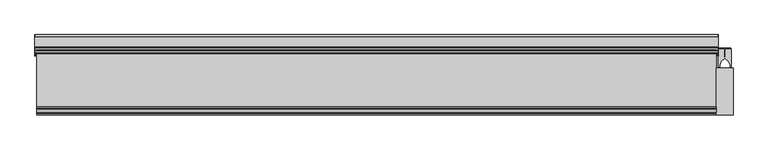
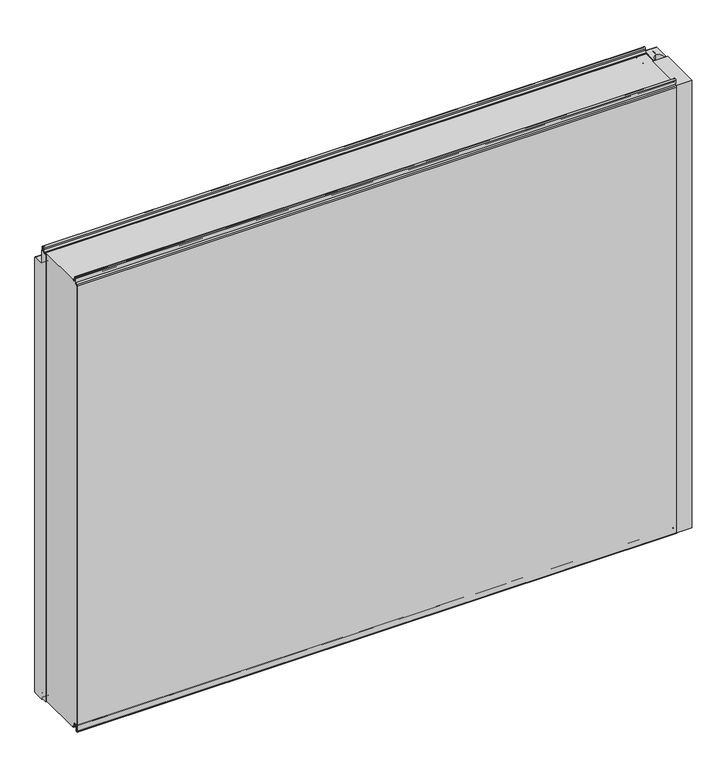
"""IFC4 building model written with IfcOpenShell, lengths in millimetres: plate geometry, Fronttop : Fronttop 150/1000."""

from ifc_helpers import new_model, si_unit, point, frame, frame_2d, origin, origin_with_axes, place, context, project, spatial, polyline, circle_curve, trimmed, segment, composite_curve, outline, extrude, source, transform, mapped, element, save
from ifc_brep_helpers import plane_surface, cylinder_surface, revolved_surface, advanced_brep


def plate_c80f8a6c(model_context):
    return source(origin(), model_context, "Body", "SolidModel", [
        advanced_brep(
        [(-636.5, 124.0, 1008.0), (-636.5, 121.0, 1008.0), (-636.5, 121.0, 1004.0), (-636.5, 117.0, 1000.0), (-636.5, 115.0, 1000.0), (-636.5, 115.0, 1001.0), (-636.5, 117.0, 1001.0), (-636.5, 120.0, 1004.0), (-636.5, 120.0, 1008.0), (-636.5, 125.0, 1008.0), (-636.5, 125.0, 1000.0), (-636.5, 124.0, 1000.0), (636.5, 125.0, 1008.0), (636.5, 120.0, 1008.0), (636.5, 120.0, 1004.0), (636.5, 117.0, 1001.0), (636.5, 115.0, 1001.0), (636.5, 115.0, 1000.0), (636.5, 117.0, 1000.0), (636.5, 121.0, 1004.0), (636.5, 121.0, 1008.0), (636.5, 124.0, 1008.0), (636.5, 124.0, 1000.0), (636.5, 125.0, 1000.0), (-636.5, 117.0, 2.0), (636.5, 117.0, 2.0), (636.5, 115.0, 2.0), (-636.5, 115.0, 2.0), (-636.5, 119.0, 4.0), (636.5, 119.0, 4.0), (-636.5, 119.0, 8.0), (636.5, 119.0, 8.0), (-636.5, 126.0, 8.0), (636.5, 126.0, 8.0), (-636.5, 126.0, 0.0), (636.5, 126.0, 0.0), (-636.5, 129.0, -3.0), (636.5, 129.0, -3.0), (-636.5, 125.0, -3.0), (-637.5, 125.0, -3.0), (-637.5, 147.0, -3.0), (-636.5, 147.0, -3.0), (636.5, 147.0, -3.0), (637.5, 147.0, -3.0), (637.5, 125.0, -3.0), (636.5, 125.0, -3.0), (-636.5, 150.0, 0.0), (636.5, 150.0, 0.0), (-637.5, 150.0, 0.0), (-637.5, 150.0, 969.0), (-636.5, 150.0, 969.0), (636.5, 150.0, 969.0), (637.5, 150.0, 969.0), (637.5, 150.0, 0.0), (-636.5, 147.0, 972.0), (636.5, 147.0, 972.0), (-637.5, 147.0, 972.0), (-637.5, 128.0, 972.0), (-636.5, 128.0, 972.0), (636.5, 128.0, 972.0), (637.5, 128.0, 972.0), (637.5, 147.0, 972.0), (-636.5, 125.0, 975.0), (636.5, 125.0, 975.0), (-637.5, 125.0, 975.0), (-637.5, 125.0, 1000.0), (637.5, 125.0, 1000.0), (637.5, 125.0, 975.0), (-636.5, 124.0, 975.0), (636.5, 124.0, 975.0), (-636.5, 128.0, 971.0), (636.5, 128.0, 971.0), (-636.5, 147.0, 971.0), (636.5, 147.0, 971.0), (-636.5, 149.0, 969.0), (636.5, 149.0, 969.0), (-636.5, 149.0, 0.0), (636.5, 149.0, 0.0), (-636.5, 147.0, -2.0), (636.5, 147.0, -2.0), (-636.5, 129.0, -2.0), (636.5, 129.0, -2.0), (-636.5, 127.0, 0.0), (636.5, 127.0, 0.0), (-636.5, 127.0, 8.0), (636.5, 127.0, 8.0), (-636.5, 118.0, 8.0), (636.5, 118.0, 8.0), (-636.5, 118.0, 4.0), (636.5, 118.0, 4.0), (-636.5, 117.0, 3.0), (636.5, 117.0, 3.0), (-636.5, 115.0, 3.0), (636.5, 115.0, 3.0), (637.5, 110.0, 1000.0), (637.5, 110.0, 0.0), (637.5, 125.0, 0.0), (636.5, 125.0, 0.0), (636.5, 110.0, 0.0), (636.5, 110.0, 1000.0), (-637.5, 125.0, 0.0), (-637.5, 110.0, 0.0), (-637.5, 110.0, 1000.0), (-636.5, 110.0, 1000.0), (-636.5, 110.0, 0.0), (-636.5, 125.0, 0.0)],
        [
            (0, 1, circle_curve(frame((-636.5, 122.5, 1008.0), z_axis=(1.0, 0.0, 0.0), x_axis=(0.0, -1.0, 0.0)), 1.5)),
            (1, 2),
            (2, 3, circle_curve(frame((-636.5, 117.0, 1004.0), z_axis=(-1.0, 0.0, 0.0), x_axis=(0.0, -1.0, 0.0)), 4.0)),
            (3, 4),
            (4, 5),
            (5, 6),
            (6, 7, circle_curve(frame((-636.5, 117.0, 1004.0), z_axis=(1.0, 0.0, 0.0), x_axis=(0.0, -1.0, 0.0)), 3.0)),
            (7, 8),
            (8, 9, circle_curve(frame((-636.5, 122.5, 1008.0), z_axis=(-1.0, 0.0, 0.0), x_axis=(0.0, -1.0, 0.0)), 2.5)),
            (9, 10),
            (10, 11),
            (11, 0),
            (12, 13, circle_curve(frame((636.5, 122.5, 1008.0), z_axis=(1.0, 0.0, 0.0), x_axis=(0.0, -1.0, 0.0)), 2.5)),
            (13, 14),
            (14, 15, circle_curve(frame((636.5, 117.0, 1004.0), z_axis=(-1.0, 0.0, 0.0), x_axis=(0.0, -1.0, 0.0)), 3.0)),
            (15, 16),
            (16, 17),
            (17, 18),
            (18, 19, circle_curve(frame((636.5, 117.0, 1004.0), z_axis=(1.0, 0.0, 0.0), x_axis=(0.0, -1.0, 0.0)), 4.0)),
            (19, 20),
            (20, 21, circle_curve(frame((636.5, 122.5, 1008.0), z_axis=(-1.0, 0.0, 0.0), x_axis=(0.0, -1.0, 0.0)), 1.5)),
            (21, 22),
            (22, 23),
            (23, 12),
            (24, 25),
            (25, 26),
            (26, 27),
            (27, 24),
            (24, 28, circle_curve(frame((-636.5, 117.0, 4.0), z_axis=(1.0, 0.0, 0.0), x_axis=(0.0, -1.0, 0.0)), 2.0)),
            (28, 29),
            (29, 25, circle_curve(frame((636.5, 117.0, 4.0), z_axis=(-1.0, 0.0, 0.0), x_axis=(0.0, -1.0, 0.0)), 2.0)),
            (28, 30),
            (30, 31),
            (31, 29),
            (30, 32, circle_curve(frame((-636.5, 122.5, 8.0), z_axis=(-1.0, 0.0, 0.0), x_axis=(0.0, -1.0, 0.0)), 3.5)),
            (32, 33),
            (33, 31, circle_curve(frame((636.5, 122.5, 8.0), z_axis=(1.0, 0.0, 0.0), x_axis=(0.0, -1.0, 0.0)), 3.5)),
            (32, 34),
            (34, 35),
            (35, 33),
            (34, 36, circle_curve(frame((-636.5, 129.0, 0.0), z_axis=(1.0, 0.0, 0.0), x_axis=(0.0, -1.0, 0.0)), 3.0)),
            (36, 37),
            (37, 35, circle_curve(frame((636.5, 129.0, 0.0), z_axis=(-1.0, 0.0, 0.0), x_axis=(0.0, -1.0, 0.0)), 3.0)),
            (36, 38),
            (38, 39),
            (39, 40),
            (40, 41),
            (41, 42),
            (42, 43),
            (43, 44),
            (44, 45),
            (45, 37),
            (41, 46, circle_curve(frame((-636.5, 147.0, 0.0), z_axis=(1.0, 0.0, 0.0), x_axis=(0.0, -1.0, 0.0)), 3.0)),
            (46, 47),
            (47, 42, circle_curve(frame((636.5, 147.0, 0.0), z_axis=(-1.0, 0.0, 0.0), x_axis=(0.0, -1.0, 0.0)), 3.0)),
            (46, 48),
            (48, 49),
            (49, 50),
            (50, 51),
            (51, 52),
            (52, 53),
            (53, 47),
            (50, 54, circle_curve(frame((-636.5, 147.0, 969.0), z_axis=(1.0, 0.0, 0.0), x_axis=(0.0, -1.0, 0.0)), 3.0)),
            (54, 55),
            (55, 51, circle_curve(frame((636.5, 147.0, 969.0), z_axis=(-1.0, 0.0, 0.0), x_axis=(0.0, -1.0, 0.0)), 3.0)),
            (54, 56),
            (56, 57),
            (57, 58),
            (58, 59),
            (59, 60),
            (60, 61),
            (61, 55),
            (58, 62, circle_curve(frame((-636.5, 128.0, 975.0), z_axis=(-1.0, 0.0, 0.0), x_axis=(0.0, -1.0, 0.0)), 3.0)),
            (62, 63),
            (63, 59, circle_curve(frame((636.5, 128.0, 975.0), z_axis=(1.0, 0.0, 0.0), x_axis=(0.0, -1.0, 0.0)), 3.0)),
            (62, 64),
            (64, 65),
            (65, 10),
            (9, 12),
            (23, 66),
            (66, 67),
            (67, 63),
            (8, 13),
            (7, 14),
            (6, 15),
            (5, 16),
            (4, 17),
            (4, 3),
            (3, 18),
            (18, 17),
            (2, 19),
            (1, 20),
            (0, 21),
            (11, 68),
            (68, 69),
            (69, 22),
            (68, 70, circle_curve(frame((-636.5, 128.0, 975.0), z_axis=(1.0, 0.0, 0.0), x_axis=(0.0, -1.0, 0.0)), 4.0)),
            (70, 71),
            (71, 69, circle_curve(frame((636.5, 128.0, 975.0), z_axis=(-1.0, 0.0, 0.0), x_axis=(0.0, -1.0, 0.0)), 4.0)),
            (70, 72),
            (72, 73),
            (73, 71),
            (72, 74, circle_curve(frame((-636.5, 147.0, 969.0), z_axis=(-1.0, 0.0, 0.0), x_axis=(0.0, -1.0, 0.0)), 2.0)),
            (74, 75),
            (75, 73, circle_curve(frame((636.5, 147.0, 969.0), z_axis=(1.0, 0.0, 0.0), x_axis=(0.0, -1.0, 0.0)), 2.0)),
            (74, 76),
            (76, 77),
            (77, 75),
            (76, 78, circle_curve(frame((-636.5, 147.0, 0.0), z_axis=(-1.0, 0.0, 0.0), x_axis=(0.0, -1.0, 0.0)), 2.0)),
            (78, 79),
            (79, 77, circle_curve(frame((636.5, 147.0, 0.0), z_axis=(1.0, 0.0, 0.0), x_axis=(0.0, -1.0, 0.0)), 2.0)),
            (78, 80),
            (80, 81),
            (81, 79),
            (80, 82, circle_curve(frame((-636.5, 129.0, 0.0), z_axis=(-1.0, 0.0, 0.0), x_axis=(0.0, -1.0, 0.0)), 2.0)),
            (82, 83),
            (83, 81, circle_curve(frame((636.5, 129.0, 0.0), z_axis=(1.0, 0.0, 0.0), x_axis=(0.0, -1.0, 0.0)), 2.0)),
            (82, 84),
            (84, 85),
            (85, 83),
            (84, 86, circle_curve(frame((-636.5, 122.5, 8.0), z_axis=(1.0, 0.0, 0.0), x_axis=(0.0, -1.0, 0.0)), 4.5)),
            (86, 87),
            (87, 85, circle_curve(frame((636.5, 122.5, 8.0), z_axis=(-1.0, 0.0, 0.0), x_axis=(0.0, -1.0, 0.0)), 4.5)),
            (86, 88),
            (88, 89),
            (89, 87),
            (88, 90, circle_curve(frame((-636.5, 117.0, 4.0), z_axis=(-1.0, 0.0, 0.0), x_axis=(0.0, -1.0, 0.0)), 1.0)),
            (90, 91),
            (91, 89, circle_curve(frame((636.5, 117.0, 4.0), z_axis=(1.0, 0.0, 0.0), x_axis=(0.0, -1.0, 0.0)), 1.0)),
            (90, 92),
            (92, 93),
            (93, 91),
            (26, 93),
            (92, 27),
            (66, 94),
            (94, 95),
            (95, 96),
            (96, 44),
            (43, 53, circle_curve(frame((637.5, 147.0, 0.0), z_axis=(1.0, 0.0, 0.0), x_axis=(0.0, 1.0, 0.0)), 3.0)),
            (52, 61, circle_curve(frame((637.5, 147.0, 969.0), z_axis=(1.0, 0.0, 0.0), x_axis=(0.0, 1.0, 0.0)), 3.0)),
            (60, 67, circle_curve(frame((637.5, 128.0, 975.0), z_axis=(-1.0, 0.0, 0.0), x_axis=(0.0, 1.0, 0.0)), 3.0)),
            (45, 97),
            (97, 98),
            (98, 99),
            (99, 17),
            (18, 22),
            (99, 94),
            (98, 95),
            (97, 96),
            (64, 57, circle_curve(frame((-637.5, 128.0, 975.0), z_axis=(1.0, 0.0, 0.0), x_axis=(0.0, 1.0, 0.0)), 3.0)),
            (56, 49, circle_curve(frame((-637.5, 147.0, 969.0), z_axis=(-1.0, 0.0, 0.0), x_axis=(0.0, 1.0, 0.0)), 3.0)),
            (48, 40, circle_curve(frame((-637.5, 147.0, 0.0), z_axis=(-1.0, 0.0, 0.0), x_axis=(0.0, 1.0, 0.0)), 3.0)),
            (39, 100),
            (100, 101),
            (101, 102),
            (102, 65),
            (103, 104),
            (104, 105),
            (105, 38),
            (11, 3),
            (4, 103),
            (102, 103),
            (101, 104),
            (100, 105),
        ],
        [
            plane_surface(frame((-636.5, 0.0, 0.0), z_axis=(-1.0, 0.0, 0.0), x_axis=(0.0, 0.0, 1.0))),
            plane_surface(frame((636.5, 0.0, 0.0), z_axis=(1.0, 0.0, 0.0), x_axis=(0.0, 0.0, 1.0))),
            plane_surface(frame((-636.5, 117.0, 2.0), z_axis=(0.0, 0.0, -1.0), x_axis=(1.0, 0.0, 0.0))),
            cylinder_surface(frame((-636.5, 117.0, 4.0), z_axis=(-1.0, 0.0, 0.0), x_axis=(0.0, -1.0, 0.0)), 2.0),
            plane_surface(frame((-636.5, 119.0, 8.0), z_axis=(0.0, 1.0, 0.0), x_axis=(1.0, 0.0, 0.0))),
            revolved_surface(polyline([(636.5, 119.0, 8.0), (-636.5, 119.0, 8.0)]), (-636.5, 122.5, 8.0), (1.0, 0.0, 0.0)),
            plane_surface(frame((-636.5, 126.0, 0.0), z_axis=(0.0, -1.0, 0.0), x_axis=(1.0, 0.0, 0.0))),
            cylinder_surface(frame((-636.5, 129.0, 0.0), z_axis=(-1.0, 0.0, 0.0), x_axis=(0.0, -1.0, 0.0)), 3.0),
            plane_surface(frame((-636.5, 147.0, -3.0), z_axis=(0.0, 0.0, -1.0), x_axis=(1.0, 0.0, 0.0))),
            cylinder_surface(frame((-636.5, 147.0, 0.0), z_axis=(-1.0, 0.0, 0.0), x_axis=(0.0, -1.0, 0.0)), 3.0),
            plane_surface(frame((-636.5, 150.0, 969.0), z_axis=(0.0, 1.0, 0.0), x_axis=(1.0, 0.0, 0.0))),
            cylinder_surface(frame((-636.5, 147.0, 969.0), z_axis=(-1.0, 0.0, 0.0), x_axis=(0.0, -1.0, 0.0)), 3.0),
            plane_surface(frame((-636.5, 128.0, 972.0), z_axis=(0.0, 0.0, 1.0), x_axis=(1.0, 0.0, 0.0))),
            revolved_surface(polyline([(636.5, 125.0, 975.0), (-636.5, 125.0, 975.0)]), (-636.5, 128.0, 975.0), (1.0, 0.0, 0.0)),
            plane_surface(frame((-636.5, 125.0, 1008.0), z_axis=(0.0, 1.0, 0.0), x_axis=(1.0, 0.0, 0.0))),
            cylinder_surface(frame((-636.5, 122.5, 1008.0), z_axis=(-1.0, 0.0, 0.0), x_axis=(0.0, -1.0, 0.0)), 2.5),
            plane_surface(frame((-636.5, 120.0, 1004.0), z_axis=(0.0, -1.0, 0.0), x_axis=(1.0, 0.0, 0.0))),
            revolved_surface(polyline([(636.5, 114.0, 1004.0), (-636.5, 114.0, 1004.0)]), (-636.5, 117.0, 1004.0), (1.0, 0.0, 0.0)),
            plane_surface(frame((-636.5, 115.0, 1001.0), z_axis=(0.0, 0.0, 1.0), x_axis=(1.0, 0.0, 0.0))),
            plane_surface(frame((-636.5, 115.0, 1000.0), z_axis=(0.0, -1.0, 0.0), x_axis=(1.0, 0.0, 0.0))),
            plane_surface(frame((-636.5, 117.0, 1000.0), z_axis=(0.0, 0.0, -1.0), x_axis=(1.0, 0.0, 0.0))),
            cylinder_surface(frame((-636.5, 117.0, 1004.0), z_axis=(-1.0, 0.0, 0.0), x_axis=(0.0, -1.0, 0.0)), 4.0),
            plane_surface(frame((-636.5, 121.0, 1008.0), z_axis=(0.0, 1.0, 0.0), x_axis=(1.0, 0.0, 0.0))),
            revolved_surface(polyline([(636.5, 121.0, 1008.0), (-636.5, 121.0, 1008.0)]), (-636.5, 122.5, 1008.0), (1.0, 0.0, 0.0)),
            plane_surface(frame((-636.5, 124.0, 975.0), z_axis=(0.0, -1.0, 0.0), x_axis=(1.0, 0.0, 0.0))),
            cylinder_surface(frame((-636.5, 128.0, 975.0), z_axis=(-1.0, 0.0, 0.0), x_axis=(0.0, -1.0, 0.0)), 4.0),
            plane_surface(frame((-636.5, 147.0, 971.0), z_axis=(0.0, 0.0, -1.0), x_axis=(1.0, 0.0, 0.0))),
            revolved_surface(polyline([(636.5, 145.0, 969.0), (-636.5, 145.0, 969.0)]), (-636.5, 147.0, 969.0), (1.0, 0.0, 0.0)),
            plane_surface(frame((-636.5, 149.0, 0.0), z_axis=(0.0, -1.0, 0.0), x_axis=(1.0, 0.0, 0.0))),
            revolved_surface(polyline([(636.5, 145.0, 0.0), (-636.5, 145.0, 0.0)]), (-636.5, 147.0, 0.0), (1.0, 0.0, 0.0)),
            plane_surface(frame((-636.5, 129.0, -2.0), z_axis=(0.0, 0.0, 1.0), x_axis=(1.0, 0.0, 0.0))),
            revolved_surface(polyline([(636.5, 127.0, 0.0), (-636.5, 127.0, 0.0)]), (-636.5, 129.0, 0.0), (1.0, 0.0, 0.0)),
            plane_surface(frame((-636.5, 127.0, 8.0), z_axis=(0.0, 1.0, 0.0), x_axis=(1.0, 0.0, 0.0))),
            cylinder_surface(frame((-636.5, 122.5, 8.0), z_axis=(-1.0, 0.0, 0.0), x_axis=(0.0, -1.0, 0.0)), 4.5),
            plane_surface(frame((-636.5, 118.0, 4.0), z_axis=(0.0, -1.0, 0.0), x_axis=(1.0, 0.0, 0.0))),
            revolved_surface(polyline([(636.5, 116.0, 4.0), (-636.5, 116.0, 4.0)]), (-636.5, 117.0, 4.0), (1.0, 0.0, 0.0)),
            plane_surface(frame((-636.5, 115.0, 3.0), z_axis=(0.0, 0.0, 1.0), x_axis=(1.0, 0.0, 0.0))),
            plane_surface(frame((-636.5, 115.0, 2.0), z_axis=(0.0, -1.0, 0.0), x_axis=(1.0, 0.0, 0.0))),
            plane_surface(frame((637.5, 125.0, 1000.0), z_axis=(1.0, 0.0, 0.0), x_axis=(0.0, -1.0, 0.0))),
            plane_surface(frame((636.5, 125.0, 1000.0), z_axis=(-1.0, 0.0, 0.0), x_axis=(0.0, 1.0, 0.0))),
            plane_surface(frame((637.5, 125.0, 1000.0), z_axis=(0.0, 0.0, 1.0), x_axis=(-1.0, 0.0, 0.0))),
            plane_surface(frame((637.5, 110.0, 1000.0), z_axis=(0.0, -1.0, 0.0), x_axis=(-1.0, 0.0, 0.0))),
            plane_surface(frame((637.5, 110.0, 0.0), z_axis=(0.0, 0.0, -1.0), x_axis=(-1.0, 0.0, 0.0))),
            cylinder_surface(frame((636.5, 147.0, 0.0), z_axis=(1.0, 0.0, 0.0), x_axis=(0.0, 1.0, 0.0)), 3.0),
            cylinder_surface(frame((636.5, 147.0, 969.0), z_axis=(1.0, 0.0, 0.0), x_axis=(0.0, 1.0, 0.0)), 3.0),
            revolved_surface(polyline([(636.5, 131.0, 975.0), (637.5, 131.0, 975.0)]), (636.5, 128.0, 975.0), (-1.0, 0.0, 0.0)),
            plane_surface(frame((-637.5, 125.0, 1000.0), z_axis=(-1.0, 0.0, 0.0), x_axis=(0.0, 1.0, 0.0))),
            plane_surface(frame((-636.5, 125.0, 1000.0), z_axis=(1.0, 0.0, 0.0), x_axis=(0.0, -1.0, 0.0))),
            plane_surface(frame((-636.5, 125.0, 1000.0), z_axis=(0.0, 0.0, 1.0), x_axis=(-1.0, 0.0, 0.0))),
            plane_surface(frame((-636.5, 110.0, 1000.0), z_axis=(0.0, -1.0, 0.0), x_axis=(-1.0, 0.0, 0.0))),
            plane_surface(frame((-636.5, 110.0, 0.0), z_axis=(0.0, 0.0, -1.0), x_axis=(-1.0, 0.0, 0.0))),
            cylinder_surface(frame((-637.5, 147.0, 0.0), z_axis=(1.0, 0.0, 0.0), x_axis=(0.0, 1.0, 0.0)), 3.0),
            cylinder_surface(frame((-637.5, 147.0, 969.0), z_axis=(1.0, 0.0, 0.0), x_axis=(0.0, 1.0, 0.0)), 3.0),
            revolved_surface(polyline([(-637.5, 131.0, 975.0), (-636.5, 131.0, 975.0)]), (-637.5, 128.0, 975.0), (-1.0, 0.0, 0.0)),
            plane_surface(frame((637.5, 125.0, 0.0), z_axis=(0.0, -1.0, 0.0), x_axis=(-1.0, 0.0, 0.0))),
            plane_surface(frame((-636.5, 125.0, 0.0), z_axis=(0.0, -1.0, 0.0), x_axis=(-1.0, 0.0, 0.0))),
        ],
        [
            (0, [[1, 2, 3, 4, 5, 6, 7, 8, 9, 10, 11, 12]]),
            (1, [[13, 14, 15, 16, 17, 18, 19, 20, 21, 22, 23, 24]]),
            (2, [[25, 26, 27, 28]]),
            (3, [[-25, 29, 30, 31]]),
            (4, [[-30, 32, 33, 34]]),
            (5, [[-33, 35, 36, 37]]),
            (6, [[-36, 38, 39, 40]]),
            (7, [[-39, 41, 42, 43]]),
            (8, [[-42, 44, 45, 46, 47, 48, 49, 50, 51, 52]]),
            (9, [[-48, 53, 54, 55]]),
            (10, [[-54, 56, 57, 58, 59, 60, 61, 62]]),
            (11, [[-59, 63, 64, 65]]),
            (12, [[-64, 66, 67, 68, 69, 70, 71, 72]]),
            (13, [[-69, 73, 74, 75]]),
            (14, [[-74, 76, 77, 78, -10, 79, -24, 80, 81, 82]]),
            (15, [[-9, 83, -13, -79]]),
            (16, [[-8, 84, -14, -83]]),
            (17, [[-7, 85, -15, -84]]),
            (18, [[-6, 86, -16, -85]]),
            (19, [[-5, 87, -17, -86]]),
            (20, [[-87, 88, 89, 90]]),
            (21, [[-3, 91, -19, -89]]),
            (22, [[-2, 92, -20, -91]]),
            (23, [[-1, 93, -21, -92]]),
            (24, [[-93, -12, 94, 95, 96, -22]]),
            (25, [[-95, 97, 98, 99]]),
            (26, [[-98, 100, 101, 102]]),
            (27, [[-101, 103, 104, 105]]),
            (28, [[-104, 106, 107, 108]]),
            (29, [[-107, 109, 110, 111]]),
            (30, [[-110, 112, 113, 114]]),
            (31, [[-113, 115, 116, 117]]),
            (32, [[-116, 118, 119, 120]]),
            (33, [[-119, 121, 122, 123]]),
            (34, [[-122, 124, 125, 126]]),
            (35, [[-125, 127, 128, 129]]),
            (36, [[-128, 130, 131, 132]]),
            (37, [[-27, 133, -131, 134]]),
            (38, [[135, 136, 137, 138, -50, 139, -61, 140, -71, 141, -81]]),
            (39, [[142, 143, 144, 145, -90, 146, -96, -99, -102, -105, -108, -111, -114, -117, -120, -123, -126, -129, -132, -133, -26, -31, -34, -37, -40, -43, -52]]),
            (40, [[-135, -80, -23, -146, -18, -145, 147]]),
            (41, [[-136, -147, -144, 148]]),
            (42, [[-137, -148, -143, 149]]),
            (43, [[-139, -49, -55, -62]]),
            (44, [[-140, -60, -65, -72]]),
            (45, [[-141, -70, -75, -82]]),
            (46, [[-77, 150, -67, 151, -57, 152, -46, 153, 154, 155, 156]]),
            (47, [[157, 158, 159, -44, -41, -38, -35, -32, -29, -28, -134, -130, -127, -124, -121, -118, -115, -112, -109, -106, -103, -100, -97, -94, 160, -88, 161]]),
            (48, [[-156, 162, -161, -4, -160, -11, -78]]),
            (49, [[-155, 163, -157, -162]]),
            (50, [[-154, 164, -158, -163]]),
            (51, [[-152, -56, -53, -47]]),
            (52, [[-151, -66, -63, -58]]),
            (53, [[-150, -76, -73, -68]]),
            (54, [[-138, -149, -142, -51]]),
            (55, [[-153, -45, -159, -164]]),
        ],
    ),
        extrude(outline(composite_curve([segment(polyline([(637.4998455, 123.5), (649.25, 123.5), (649.25, 107.5), (650.75, 107.5), (650.75, 123.5), (662.5001545, 123.5), (662.5001545, 90.0), (659.75, 90.0), (659.75, 92.5)]), True, "CONTINUOUS"), segment(trimmed(circle_curve(frame_2d((641.9661979, 89.3183984)), 18.0661619), [point((659.75, 92.5))], [point((650.0, 105.5))], True, "CARTESIAN"), True, "CONTINUOUS"), segment(trimmed(circle_curve(frame_2d((658.0338021, 89.3183984)), 18.0661619), [point((650.0, 105.5))], [point((640.25, 92.5))], True, "CARTESIAN"), True, "CONTINUOUS"), segment(polyline([(640.25, 92.5), (640.25, 90.0), (637.4998455, 90.0), (637.4998455, 123.5)]), True, "CONTINUOUS")], self_intersect=False)), origin_with_axes(), (0.0, 0.0, 1.0), 1000.0),
        extrude(outline(polyline([(665.5, 0.0), (634.5, 0.0), (634.5, 88.0), (665.5, 88.0), (665.5, 0.0)])), origin_with_axes(), (0.0, 0.0, 1.0), 1000.0),
        extrude(outline(polyline([(638.4948846, 125.0), (661.5051154, 125.0), (661.5051154, 123.5), (650.6502496, 123.5), (650.6502496, 109.0759655), (649.35, 109.0759655), (649.35, 123.5), (638.4948846, 123.5), (638.4948846, 125.0)])), origin_with_axes(), (0.0, 0.0, 1.0), 1000.0),
        advanced_brep(
        [(-634.5, 13.0, 1001.0), (-634.5, 15.0, 1001.0), (-634.5, 15.0, 1000.0), (-634.5, 13.0, 1000.0), (-634.5, 9.0, 1004.0), (-634.5, 9.0, 1008.0), (-634.5, 6.0, 1008.0), (-634.5, 6.0, 999.5), (-634.5, 2.1134897, 996.0214069), (-634.5, 1.0, 995.0), (-634.5, 1.0, -0.5), (-634.5, 3.0, -0.5), (-634.5, 3.0, 8.0), (-634.5, 12.0, 8.0), (-634.5, 12.0, 4.0), (-634.5, 13.0, 3.0), (-634.5, 15.0, 3.0), (-634.5, 15.0, 2.0), (-634.5, 13.0, 2.0), (-634.5, 11.0, 4.0), (-634.5, 11.0, 8.0), (-634.5, 4.0, 8.0), (-634.5, 4.0, -0.5), (-634.5, 0.0, -0.5), (-634.5, 0.0, 995.0), (-634.5, 2.220863, 996.9877675), (-634.5, 5.0, 999.5), (-634.5, 5.0, 1008.0), (-634.5, 10.0, 1008.0), (-634.5, 10.0, 1004.0), (634.5, 13.0, 1001.0), (634.5, 10.0, 1004.0), (634.5, 10.0, 1008.0), (634.5, 5.0, 1008.0), (634.5, 5.0, 999.5), (634.5, 2.2239212, 997.0152907), (634.5, 0.0, 995.0), (634.5, 0.0, -0.5), (634.5, 4.0, -0.5), (634.5, 4.0, 8.0), (634.5, 11.0, 8.0), (634.5, 11.0, 4.0), (634.5, 13.0, 2.0), (634.5, 15.0, 2.0), (634.5, 15.0, 3.0), (634.5, 13.0, 3.0), (634.5, 12.0, 4.0), (634.5, 12.0, 8.0), (634.5, 3.0, 8.0), (634.5, 3.0, -0.5), (634.5, 1.0, -0.5), (634.5, 1.0, 995.0), (634.5, 2.1104315, 995.9938837), (634.5, 6.0, 999.5), (634.5, 6.0, 1008.0), (634.5, 9.0, 1008.0), (634.5, 9.0, 1004.0), (634.5, 13.0, 1000.0), (634.5, 15.0, 1000.0), (634.5, 15.0, 1001.0)],
        [
            (0, 1),
            (1, 2),
            (2, 3),
            (3, 4, circle_curve(frame((-634.5, 13.0, 1004.0), z_axis=(-1.0, 0.0, 0.0), x_axis=(0.0, -1.0, 0.0)), 4.0)),
            (4, 5),
            (5, 6, circle_curve(frame((-634.5, 7.5, 1008.0), z_axis=(1.0, 0.0, 0.0), x_axis=(0.0, -1.0, 0.0)), 1.5)),
            (6, 7),
            (7, 8, circle_curve(frame((-634.5, 2.5, 999.5), z_axis=(-1.0, 0.0, 0.0), x_axis=(0.0, -1.0, 0.0)), 3.5)),
            (8, 9, circle_curve(frame((-634.5, 2.0, 995.0), z_axis=(1.0, 0.0, 0.0), x_axis=(0.0, -1.0, 0.0)), 1.0)),
            (9, 10),
            (10, 11, circle_curve(frame((-634.5, 2.0, -0.5), z_axis=(1.0, 0.0, 0.0), x_axis=(0.0, -1.0, 0.0)), 1.0)),
            (11, 12),
            (12, 13, circle_curve(frame((-634.5, 7.5, 8.0), z_axis=(-1.0, 0.0, 0.0), x_axis=(0.0, -1.0, 0.0)), 4.5)),
            (13, 14),
            (14, 15, circle_curve(frame((-634.5, 13.0, 4.0), z_axis=(1.0, 0.0, 0.0), x_axis=(0.0, -1.0, 0.0)), 1.0)),
            (15, 16),
            (16, 17),
            (17, 18),
            (18, 19, circle_curve(frame((-634.5, 13.0, 4.0), z_axis=(-1.0, 0.0, 0.0), x_axis=(0.0, -1.0, 0.0)), 2.0)),
            (19, 20),
            (20, 21, circle_curve(frame((-634.5, 7.5, 8.0), z_axis=(1.0, 0.0, 0.0), x_axis=(0.0, -1.0, 0.0)), 3.5)),
            (21, 22),
            (22, 23, circle_curve(frame((-634.5, 2.0, -0.5), z_axis=(-1.0, 0.0, 0.0), x_axis=(0.0, -1.0, 0.0)), 2.0)),
            (23, 24),
            (24, 25, circle_curve(frame((-634.5, 2.0, 995.0), z_axis=(-1.0, 0.0, 0.0), x_axis=(0.0, -1.0, 0.0)), 2.0)),
            (25, 26, circle_curve(frame((-634.5, 2.5, 999.5), z_axis=(1.0, 0.0, 0.0), x_axis=(0.0, -1.0, 0.0)), 2.5)),
            (26, 27),
            (27, 28, circle_curve(frame((-634.5, 7.5, 1008.0), z_axis=(-1.0, 0.0, 0.0), x_axis=(0.0, -1.0, 0.0)), 2.5)),
            (28, 29),
            (29, 0, circle_curve(frame((-634.5, 13.0, 1004.0), z_axis=(1.0, 0.0, 0.0), x_axis=(0.0, -1.0, 0.0)), 3.0)),
            (30, 31, circle_curve(frame((634.5, 13.0, 1004.0), z_axis=(-1.0, 0.0, 0.0), x_axis=(0.0, -1.0, 0.0)), 3.0)),
            (31, 32),
            (32, 33, circle_curve(frame((634.5, 7.5, 1008.0), z_axis=(1.0, 0.0, 0.0), x_axis=(0.0, -1.0, 0.0)), 2.5)),
            (33, 34),
            (34, 35, circle_curve(frame((634.5, 2.5, 999.5), z_axis=(-1.0, 0.0, 0.0), x_axis=(0.0, -1.0, 0.0)), 2.5)),
            (35, 36, circle_curve(frame((634.5, 2.0, 995.0), z_axis=(1.0, 0.0, 0.0), x_axis=(0.0, -1.0, 0.0)), 2.0)),
            (36, 37),
            (37, 38, circle_curve(frame((634.5, 2.0, -0.5), z_axis=(1.0, 0.0, 0.0), x_axis=(0.0, -1.0, 0.0)), 2.0)),
            (38, 39),
            (39, 40, circle_curve(frame((634.5, 7.5, 8.0), z_axis=(-1.0, 0.0, 0.0), x_axis=(0.0, -1.0, 0.0)), 3.5)),
            (40, 41),
            (41, 42, circle_curve(frame((634.5, 13.0, 4.0), z_axis=(1.0, 0.0, 0.0), x_axis=(0.0, -1.0, 0.0)), 2.0)),
            (42, 43),
            (43, 44),
            (44, 45),
            (45, 46, circle_curve(frame((634.5, 13.0, 4.0), z_axis=(-1.0, 0.0, 0.0), x_axis=(0.0, -1.0, 0.0)), 1.0)),
            (46, 47),
            (47, 48, circle_curve(frame((634.5, 7.5, 8.0), z_axis=(1.0, 0.0, 0.0), x_axis=(0.0, -1.0, 0.0)), 4.5)),
            (48, 49),
            (49, 50, circle_curve(frame((634.5, 2.0, -0.5), z_axis=(-1.0, 0.0, 0.0), x_axis=(0.0, -1.0, 0.0)), 1.0)),
            (50, 51),
            (51, 52, circle_curve(frame((634.5, 2.0, 995.0), z_axis=(-1.0, 0.0, 0.0), x_axis=(0.0, -1.0, 0.0)), 1.0)),
            (52, 53, circle_curve(frame((634.5, 2.5, 999.5), z_axis=(1.0, 0.0, 0.0), x_axis=(0.0, -1.0, 0.0)), 3.5)),
            (53, 54),
            (54, 55, circle_curve(frame((634.5, 7.5, 1008.0), z_axis=(-1.0, 0.0, 0.0), x_axis=(0.0, -1.0, 0.0)), 1.5)),
            (55, 56),
            (56, 57, circle_curve(frame((634.5, 13.0, 1004.0), z_axis=(1.0, 0.0, 0.0), x_axis=(0.0, -1.0, 0.0)), 4.0)),
            (57, 58),
            (58, 59),
            (59, 30),
            (0, 30),
            (59, 1),
            (58, 2),
            (57, 3),
            (56, 4),
            (55, 5),
            (54, 6),
            (53, 7),
            (52, 8),
            (51, 9),
            (50, 10),
            (49, 11),
            (48, 12),
            (47, 13),
            (46, 14),
            (45, 15),
            (44, 16),
            (43, 17),
            (42, 18),
            (41, 19),
            (40, 20),
            (39, 21),
            (38, 22),
            (37, 23),
            (36, 24),
            (35, 25),
            (34, 26),
            (33, 27),
            (32, 28),
            (31, 29),
        ],
        [
            plane_surface(frame((-634.5, 0.0, 0.0), z_axis=(-1.0, 0.0, 0.0), x_axis=(0.0, 0.0, 1.0))),
            plane_surface(frame((634.5, 0.0, 0.0), z_axis=(1.0, 0.0, 0.0), x_axis=(0.0, 0.0, 1.0))),
            plane_surface(frame((-634.5, 13.0, 1001.0), z_axis=(0.0, 0.0, 1.0), x_axis=(1.0, 0.0, 0.0))),
            plane_surface(frame((-634.5, 15.0, 1001.0), z_axis=(0.0, 1.0, 0.0), x_axis=(1.0, 0.0, 0.0))),
            plane_surface(frame((-634.5, 15.0, 1000.0), z_axis=(0.0, 0.0, -1.0), x_axis=(1.0, 0.0, 0.0))),
            cylinder_surface(frame((-634.5, 13.0, 1004.0), z_axis=(-1.0, 0.0, 0.0), x_axis=(0.0, -1.0, 0.0)), 4.0),
            plane_surface(frame((-634.5, 9.0, 1004.0), z_axis=(0.0, -1.0, 0.0), x_axis=(1.0, 0.0, 0.0))),
            revolved_surface(polyline([(634.5, 6.0, 1008.0), (-634.5, 6.0, 1008.0)]), (-634.5, 7.5, 1008.0), (1.0, 0.0, 0.0)),
            plane_surface(frame((-634.5, 6.0, 1008.0), z_axis=(0.0, 1.0, 0.0), x_axis=(1.0, 0.0, 0.0))),
            cylinder_surface(frame((-634.5, 2.5, 999.5), z_axis=(-1.0, 0.0, 0.0), x_axis=(0.0, -1.0, 0.0)), 3.5),
            revolved_surface(polyline([(634.5, 1.0, 995.0), (-634.5, 1.0, 995.0)]), (-634.5, 2.0, 995.0), (1.0, 0.0, 0.0)),
            plane_surface(frame((-634.5, 1.0, 995.0), z_axis=(0.0, 1.0, 0.0), x_axis=(1.0, 0.0, 0.0))),
            revolved_surface(polyline([(634.5, 1.0, -0.5), (-634.5, 1.0, -0.5)]), (-634.5, 2.0, -0.5), (1.0, 0.0, 0.0)),
            plane_surface(frame((-634.5, 3.0, -0.5), z_axis=(0.0, -1.0, 0.0), x_axis=(1.0, 0.0, 0.0))),
            cylinder_surface(frame((-634.5, 7.5, 8.0), z_axis=(-1.0, 0.0, 0.0), x_axis=(0.0, -1.0, 0.0)), 4.5),
            plane_surface(frame((-634.5, 12.0, 8.0), z_axis=(0.0, 1.0, 0.0), x_axis=(1.0, 0.0, 0.0))),
            revolved_surface(polyline([(634.5, 12.0, 4.0), (-634.5, 12.0, 4.0)]), (-634.5, 13.0, 4.0), (1.0, 0.0, 0.0)),
            plane_surface(frame((-634.5, 13.0, 3.0), z_axis=(0.0, 0.0, 1.0), x_axis=(1.0, 0.0, 0.0))),
            plane_surface(frame((-634.5, 15.0, 3.0), z_axis=(0.0, 1.0, 0.0), x_axis=(1.0, 0.0, 0.0))),
            plane_surface(frame((-634.5, 15.0, 2.0), z_axis=(0.0, 0.0, -1.0), x_axis=(1.0, 0.0, 0.0))),
            cylinder_surface(frame((-634.5, 13.0, 4.0), z_axis=(-1.0, 0.0, 0.0), x_axis=(0.0, -1.0, 0.0)), 2.0),
            plane_surface(frame((-634.5, 11.0, 4.0), z_axis=(0.0, -1.0, 0.0), x_axis=(1.0, 0.0, 0.0))),
            revolved_surface(polyline([(634.5, 4.0, 8.0), (-634.5, 4.0, 8.0)]), (-634.5, 7.5, 8.0), (1.0, 0.0, 0.0)),
            plane_surface(frame((-634.5, 4.0, 8.0), z_axis=(0.0, 1.0, 0.0), x_axis=(1.0, 0.0, 0.0))),
            cylinder_surface(frame((-634.5, 2.0, -0.5), z_axis=(-1.0, 0.0, 0.0), x_axis=(0.0, -1.0, 0.0)), 2.0),
            plane_surface(frame((-634.5, 0.0, -0.5), z_axis=(0.0, -1.0, 0.0), x_axis=(1.0, 0.0, 0.0))),
            cylinder_surface(frame((-634.5, 2.0, 995.0), z_axis=(-1.0, 0.0, 0.0), x_axis=(0.0, -1.0, 0.0)), 2.0),
            revolved_surface(polyline([(634.5, 0.0, 999.5), (-634.5, 0.0, 999.5)]), (-634.5, 2.5, 999.5), (1.0, 0.0, 0.0)),
            plane_surface(frame((-634.5, 5.0, 999.5), z_axis=(0.0, -1.0, 0.0), x_axis=(1.0, 0.0, 0.0))),
            cylinder_surface(frame((-634.5, 7.5, 1008.0), z_axis=(-1.0, 0.0, 0.0), x_axis=(0.0, -1.0, 0.0)), 2.5),
            plane_surface(frame((-634.5, 10.0, 1008.0), z_axis=(0.0, 1.0, 0.0), x_axis=(1.0, 0.0, 0.0))),
            revolved_surface(polyline([(634.5, 10.0, 1004.0), (-634.5, 10.0, 1004.0)]), (-634.5, 13.0, 1004.0), (1.0, 0.0, 0.0)),
        ],
        [
            (0, [[1, 2, 3, 4, 5, 6, 7, 8, 9, 10, 11, 12, 13, 14, 15, 16, 17, 18, 19, 20, 21, 22, 23, 24, 25, 26, 27, 28, 29, 30]]),
            (1, [[31, 32, 33, 34, 35, 36, 37, 38, 39, 40, 41, 42, 43, 44, 45, 46, 47, 48, 49, 50, 51, 52, 53, 54, 55, 56, 57, 58, 59, 60]]),
            (2, [[-1, 61, -60, 62]]),
            (3, [[-2, -62, -59, 63]]),
            (4, [[-3, -63, -58, 64]]),
            (5, [[-4, -64, -57, 65]]),
            (6, [[-5, -65, -56, 66]]),
            (7, [[-6, -66, -55, 67]]),
            (8, [[-7, -67, -54, 68]]),
            (9, [[-8, -68, -53, 69]]),
            (10, [[-9, -69, -52, 70]]),
            (11, [[-10, -70, -51, 71]]),
            (12, [[-11, -71, -50, 72]]),
            (13, [[-12, -72, -49, 73]]),
            (14, [[-13, -73, -48, 74]]),
            (15, [[-14, -74, -47, 75]]),
            (16, [[-15, -75, -46, 76]]),
            (17, [[-16, -76, -45, 77]]),
            (18, [[-17, -77, -44, 78]]),
            (19, [[-18, -78, -43, 79]]),
            (20, [[-19, -79, -42, 80]]),
            (21, [[-20, -80, -41, 81]]),
            (22, [[-21, -81, -40, 82]]),
            (23, [[-22, -82, -39, 83]]),
            (24, [[-23, -83, -38, 84]]),
            (25, [[-24, -84, -37, 85]]),
            (26, [[-25, -85, -36, 86]]),
            (27, [[-26, -86, -35, 87]]),
            (28, [[-27, -87, -34, 88]]),
            (29, [[-28, -88, -33, 89]]),
            (30, [[-29, -89, -32, 90]]),
            (31, [[-30, -90, -31, -61]]),
        ],
    ),
        extrude(outline(composite_curve([segment(polyline([(15.0, 3.0), (13.0, 3.0)]), True, "CONTINUOUS"), segment(trimmed(circle_curve(frame_2d((13.0, 4.0)), 1.0), [point((13.0, 3.0))], [point((12.0, 4.0))], False, "CARTESIAN"), True, "CONTINUOUS"), segment(polyline([(12.0, 4.0), (12.0, 8.0)]), True, "CONTINUOUS"), segment(trimmed(circle_curve(frame_2d((7.5, 8.0)), 4.5), [point((12.0, 8.0))], [point((3.0, 8.0))], True, "CARTESIAN"), True, "CONTINUOUS"), segment(polyline([(3.0, 8.0), (3.0, -0.5)]), True, "CONTINUOUS"), segment(trimmed(circle_curve(frame_2d((2.0, -0.5)), 1.0), [point((3.0, -0.5))], [point((1.0, -0.5))], False, "CARTESIAN"), True, "CONTINUOUS"), segment(polyline([(1.0, -0.5), (1.0, 995.0278643)]), True, "CONTINUOUS"), segment(trimmed(circle_curve(frame_2d((2.0, 995.0278643)), 1.0), [point((1.0, 995.0278643))], [point((2.1111111, 996.0216723))], False, "CARTESIAN"), True, "CONTINUOUS"), segment(trimmed(circle_curve(frame_2d((2.5, 999.5)), 3.5), [point((2.1111111, 996.0216723))], [point((6.0, 999.5))], True, "CARTESIAN"), True, "CONTINUOUS"), segment(polyline([(6.0, 999.5), (6.0, 1008.0)]), True, "CONTINUOUS"), segment(trimmed(circle_curve(frame_2d((7.5, 1008.0)), 1.5), [point((6.0, 1008.0))], [point((9.0, 1008.0))], False, "CARTESIAN"), True, "CONTINUOUS"), segment(polyline([(9.0, 1008.0), (9.0, 1004.0)]), True, "CONTINUOUS"), segment(trimmed(circle_curve(frame_2d((13.0, 1004.0)), 4.0), [point((9.0, 1004.0))], [point((13.0, 1000.0))], True, "CARTESIAN"), True, "CONTINUOUS"), segment(polyline([(13.0, 1000.0), (117.0, 1000.0)]), True, "CONTINUOUS"), segment(trimmed(circle_curve(frame_2d((117.0, 1004.0)), 4.0), [point((117.0, 1000.0))], [point((121.0, 1004.0))], True, "CARTESIAN"), True, "CONTINUOUS"), segment(polyline([(121.0, 1004.0), (121.0, 1008.0)]), True, "CONTINUOUS"), segment(trimmed(circle_curve(frame_2d((122.5, 1008.0)), 1.5), [point((121.0, 1008.0))], [point((124.0, 1008.0))], False, "CARTESIAN"), True, "CONTINUOUS"), segment(polyline([(124.0, 1008.0), (124.0, 975.0)]), True, "CONTINUOUS"), segment(trimmed(circle_curve(frame_2d((128.0, 975.0)), 4.0), [point((124.0, 975.0))], [point((128.0, 971.0))], True, "CARTESIAN"), True, "CONTINUOUS"), segment(polyline([(128.0, 971.0), (147.0, 971.0)]), True, "CONTINUOUS"), segment(trimmed(circle_curve(frame_2d((147.0, 969.0)), 2.0), [point((147.0, 971.0))], [point((149.0, 969.0))], False, "CARTESIAN"), True, "CONTINUOUS"), segment(polyline([(149.0, 969.0), (149.0, 0.0)]), True, "CONTINUOUS"), segment(trimmed(circle_curve(frame_2d((147.0, 0.0)), 2.0), [point((149.0, 0.0))], [point((147.0, -2.0))], False, "CARTESIAN"), True, "CONTINUOUS"), segment(polyline([(147.0, -2.0), (129.0, -2.0)]), True, "CONTINUOUS"), segment(trimmed(circle_curve(frame_2d((129.0, 0.0)), 2.0), [point((129.0, -2.0))], [point((127.0, 0.0))], False, "CARTESIAN"), True, "CONTINUOUS"), segment(polyline([(127.0, 0.0), (127.0, 8.0)]), True, "CONTINUOUS"), segment(trimmed(circle_curve(frame_2d((122.5, 8.0)), 4.5), [point((127.0, 8.0))], [point((118.0, 8.0))], True, "CARTESIAN"), True, "CONTINUOUS"), segment(polyline([(118.0, 8.0), (118.0, 4.0)]), True, "CONTINUOUS"), segment(trimmed(circle_curve(frame_2d((117.0, 4.0)), 1.0), [point((118.0, 4.0))], [point((117.0, 3.0))], False, "CARTESIAN"), True, "CONTINUOUS"), segment(polyline([(117.0, 3.0), (115.0, 3.0), (115.0, 0.0), (15.0, 0.0), (15.0, 3.0)]), True, "CONTINUOUS")], self_intersect=False)), frame((-634.5, 0.0, 0.0), z_axis=(1.0, 0.0, 0.0), x_axis=(0.0, 1.0, 0.0)), (0.0, 0.0, 1.0), 1269.0),
    ])


if __name__ == "__main__":
    model = new_model("IFC4")
    model_context = context("Model", 3, world=origin())
    ifc_project = project(units=[si_unit("LENGTHUNIT", "METRE", prefix="MILLI")], contexts=[model_context])
    site = spatial("IfcSite", under=ifc_project)
    building = spatial("IfcBuilding", under=site)
    placement = place(None, origin())
    plate_shape = plate_c80f8a6c(model_context)
    element("IfcPlate", 1, ObjectType="Fronttop : Fronttop 150/1000", at=placement, inside=building, context=model_context, shape_type="MappedRepresentation", body=[
        mapped(plate_shape, transform((0.0, 0.0, 0.0), x_axis=(1.0, 0.0, 0.0), y_axis=(0.0, 1.0, 0.0), z_axis=(0.0, 0.0, 1.0))),
    ])
    save(model, "model.ifc")
